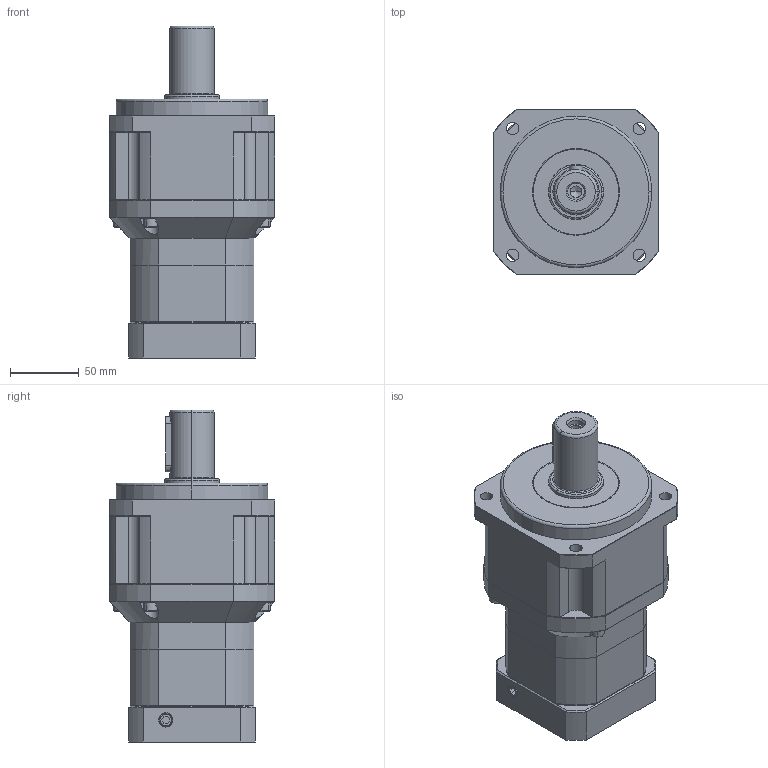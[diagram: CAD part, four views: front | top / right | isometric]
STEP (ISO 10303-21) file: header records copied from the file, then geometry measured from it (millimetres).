
FILE_DESCRIPTION (( 'STEP AP203' ), '1' );
FILE_NAME ('SB120-2-80M6.STEP', '2011-07-11T08:46:59', ( '1' ), ( '' ), 'SwSTEP 2.0', 'SolidWorks 2011', '' );
FILE_SCHEMA (( 'CONFIG_CONTROL_DESIGN' ));
Length unit declared in the file: millimetre
Products named in the file (1): SB120-2-80M6
Bounding box: 120 x 120 x 241 mm (x, y, z)
Volume: 1679708 mm3; surface area: 217863.8 mm2
Topology: 21 solids, 21 shells, 803 faces, 1894 edges, 1160 vertices
Faces by surface type: plane 355, cylinder 250, cone 151, torus 34, bspline 13
Entity records: 24025 total; most frequent: CARTESIAN_POINT 5325, DIRECTION 4051, ORIENTED_EDGE 3720, EDGE_CURVE 1860, AXIS2_PLACEMENT_3D 1532, VERTEX_POINT 1160, VECTOR 987, LINE 987
